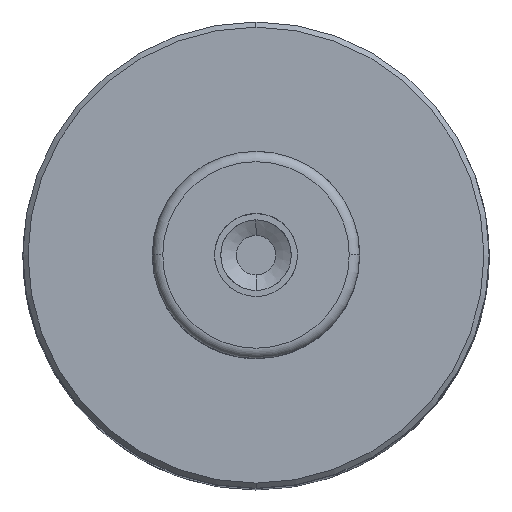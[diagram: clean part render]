
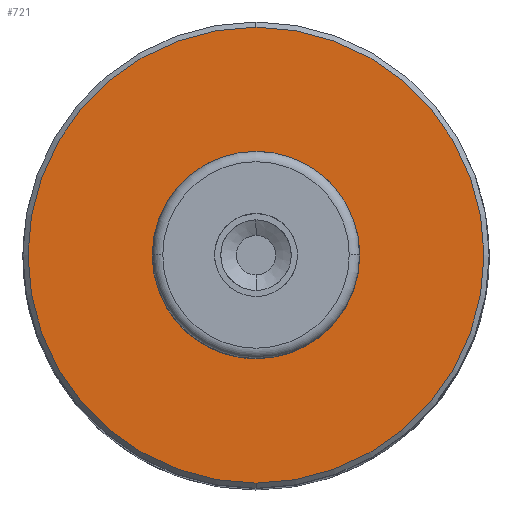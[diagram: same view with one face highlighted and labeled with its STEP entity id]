
A CAD part, top view. The second image highlights one B-rep face of the part: STEP entity #721.
In plain terms, the highlighted planar face has unit normal (0, 0, 1).
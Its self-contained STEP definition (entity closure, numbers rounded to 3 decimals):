
#400=CARTESIAN_POINT('Vertex',(0.,22.,93.)) ;
#407=CARTESIAN_POINT('Vertex',(0.,-22.,93.)) ;
#410=CARTESIAN_POINT('Axis2P3D Location',(0.,0.,93.)) ;
#427=CARTESIAN_POINT('Axis2P3D Location',(0.,0.,93.)) ;
#652=CARTESIAN_POINT('Axis2P3D Location',(0.,16.,93.)) ;
#662=CARTESIAN_POINT('Control Point',(0.,10.,93.)) ;
#663=CARTESIAN_POINT('Control Point',(-0.93,10.,93.)) ;
#664=CARTESIAN_POINT('Control Point',(-1.859,9.892,93.)) ;
#665=CARTESIAN_POINT('Control Point',(-2.772,9.676,93.)) ;
#666=CARTESIAN_POINT('Control Point',(-4.53,9.036,93.)) ;
#667=CARTESIAN_POINT('Control Point',(-6.095,8.01,93.)) ;
#668=CARTESIAN_POINT('Control Point',(-6.815,7.407,93.)) ;
#669=CARTESIAN_POINT('Control Point',(-8.1,6.047,93.)) ;
#670=CARTESIAN_POINT('Control Point',(-9.039,4.428,93.)) ;
#671=CARTESIAN_POINT('Control Point',(-9.412,3.567,93.)) ;
#672=CARTESIAN_POINT('Control Point',(-9.951,1.775,93.)) ;
#673=CARTESIAN_POINT('Control Point',(-10.065,-0.093,93.)) ;
#674=CARTESIAN_POINT('Control Point',(-10.012,-1.03,93.)) ;
#675=CARTESIAN_POINT('Control Point',(-9.691,-2.873,93.)) ;
#676=CARTESIAN_POINT('Control Point',(-8.955,-4.594,93.)) ;
#677=CARTESIAN_POINT('Control Point',(-8.489,-5.408,93.)) ;
#678=CARTESIAN_POINT('Control Point',(-7.375,-6.912,93.)) ;
#679=CARTESIAN_POINT('Control Point',(-5.946,-8.121,93.)) ;
#680=CARTESIAN_POINT('Control Point',(-5.165,-8.639,93.)) ;
#681=CARTESIAN_POINT('Control Point',(-3.696,-9.383,93.)) ;
#682=CARTESIAN_POINT('Control Point',(-2.111,-9.813,93.)) ;
#683=CARTESIAN_POINT('Control Point',(-1.412,-9.938,93.)) ;
#684=CARTESIAN_POINT('Control Point',(-0.706,-10.,93.)) ;
#685=CARTESIAN_POINT('Control Point',(0.,-10.,93.)) ;
#686=CARTESIAN_POINT('Vertex',(0.,10.,93.)) ;
#688=CARTESIAN_POINT('Vertex',(0.,-10.,93.)) ;
#692=CARTESIAN_POINT('Control Point',(0.,-10.,93.)) ;
#693=CARTESIAN_POINT('Control Point',(0.93,-10.,93.)) ;
#694=CARTESIAN_POINT('Control Point',(1.859,-9.892,93.)) ;
#695=CARTESIAN_POINT('Control Point',(2.772,-9.676,93.)) ;
#696=CARTESIAN_POINT('Control Point',(4.53,-9.036,93.)) ;
#697=CARTESIAN_POINT('Control Point',(6.095,-8.01,93.)) ;
#698=CARTESIAN_POINT('Control Point',(6.815,-7.407,93.)) ;
#699=CARTESIAN_POINT('Control Point',(8.1,-6.047,93.)) ;
#700=CARTESIAN_POINT('Control Point',(9.039,-4.428,93.)) ;
#701=CARTESIAN_POINT('Control Point',(9.412,-3.567,93.)) ;
#702=CARTESIAN_POINT('Control Point',(9.951,-1.775,93.)) ;
#703=CARTESIAN_POINT('Control Point',(10.065,0.093,93.)) ;
#704=CARTESIAN_POINT('Control Point',(10.012,1.03,93.)) ;
#705=CARTESIAN_POINT('Control Point',(9.691,2.873,93.)) ;
#706=CARTESIAN_POINT('Control Point',(8.955,4.594,93.)) ;
#707=CARTESIAN_POINT('Control Point',(8.489,5.408,93.)) ;
#708=CARTESIAN_POINT('Control Point',(7.375,6.912,93.)) ;
#709=CARTESIAN_POINT('Control Point',(5.946,8.121,93.)) ;
#710=CARTESIAN_POINT('Control Point',(5.165,8.639,93.)) ;
#711=CARTESIAN_POINT('Control Point',(3.696,9.383,93.)) ;
#712=CARTESIAN_POINT('Control Point',(2.111,9.813,93.)) ;
#713=CARTESIAN_POINT('Control Point',(1.412,9.938,93.)) ;
#714=CARTESIAN_POINT('Control Point',(0.706,10.,93.)) ;
#715=CARTESIAN_POINT('Control Point',(0.,10.,93.)) ;
#411=DIRECTION('Axis2P3D Direction',(0.,0.,-1.)) ;
#428=DIRECTION('Axis2P3D Direction',(0.,0.,-1.)) ;
#653=DIRECTION('Axis2P3D Direction',(0.,0.,1.)) ;
#654=DIRECTION('Axis2P3D XDirection',(0.,1.,0.)) ;
#412=AXIS2_PLACEMENT_3D('Circle Axis2P3D',#410,#411,$) ;
#429=AXIS2_PLACEMENT_3D('Circle Axis2P3D',#427,#428,$) ;
#655=AXIS2_PLACEMENT_3D('Plane Axis2P3D',#652,#653,#654) ;
#658=ORIENTED_EDGE('',*,*,#414,.T.) ;
#659=ORIENTED_EDGE('',*,*,#431,.T.) ;
#718=ORIENTED_EDGE('',*,*,#690,.F.) ;
#719=ORIENTED_EDGE('',*,*,#716,.F.) ;
#720=FACE_BOUND('',#717,.T.) ;
#721=ADVANCED_FACE('',(#660,#720),#656,.T.) ;
#661=B_SPLINE_CURVE_WITH_KNOTS('',5,(#662,#663,#664,#665,#666,#667,#668,#669,#670,#671,#672,#673,#674,#675,#676,#677,#678,#679,#680,#681,#682,#683,#684,#685),.UNSPECIFIED.,.F.,.U.,(6,3,3,3,3,3,3,6),(0.,6.573,13.145,19.718,26.29,32.863,39.436,44.428),.UNSPECIFIED.) ;
#691=B_SPLINE_CURVE_WITH_KNOTS('',5,(#692,#693,#694,#695,#696,#697,#698,#699,#700,#701,#702,#703,#704,#705,#706,#707,#708,#709,#710,#711,#712,#713,#714,#715),.UNSPECIFIED.,.F.,.U.,(6,3,3,3,3,3,3,6),(0.,6.573,13.145,19.718,26.29,32.863,39.436,44.428),.UNSPECIFIED.) ;
#413=CIRCLE('generated circle',#412,22.) ;
#430=CIRCLE('generated circle',#429,22.) ;
#414=EDGE_CURVE('',#401,#408,#413,.F.) ;
#431=EDGE_CURVE('',#408,#401,#430,.F.) ;
#690=EDGE_CURVE('',#687,#689,#661,.T.) ;
#716=EDGE_CURVE('',#689,#687,#691,.T.) ;
#657=EDGE_LOOP('',(#658,#659)) ;
#717=EDGE_LOOP('',(#718,#719)) ;
#660=FACE_OUTER_BOUND('',#657,.T.) ;
#656=PLANE('Plane',#655) ;
#401=VERTEX_POINT('',#400) ;
#408=VERTEX_POINT('',#407) ;
#687=VERTEX_POINT('',#686) ;
#689=VERTEX_POINT('',#688) ;
